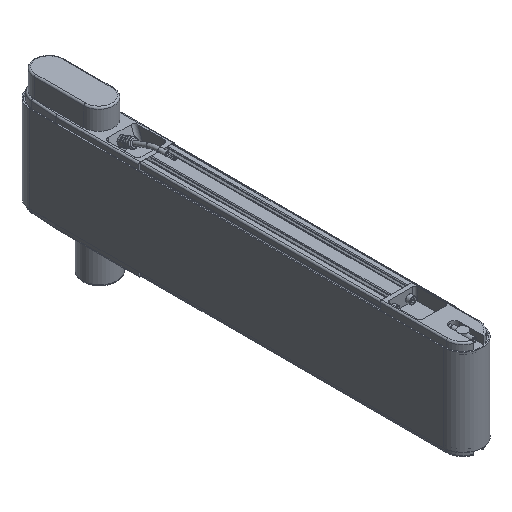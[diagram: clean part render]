
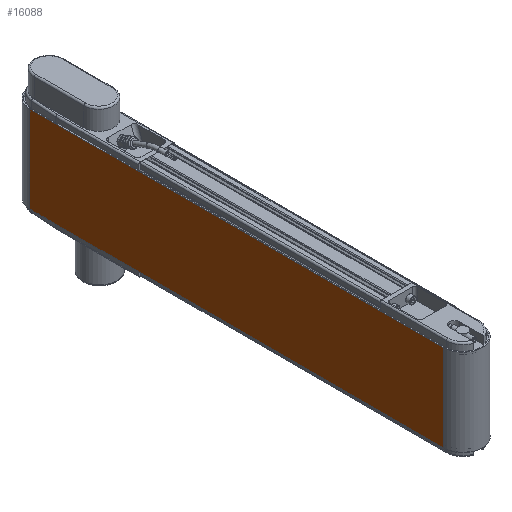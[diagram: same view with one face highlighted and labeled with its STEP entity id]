
A CAD part, isometric view. The second image highlights one B-rep face of the part: STEP entity #16088.
In plain terms, the highlighted planar face has unit normal (-1, 0, 0).
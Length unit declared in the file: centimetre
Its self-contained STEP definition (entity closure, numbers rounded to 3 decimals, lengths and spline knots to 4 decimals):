
#506=PLANE('',#17149);
#1167=FACE_OUTER_BOUND('',#2058,.T.);
#2058=EDGE_LOOP('',(#10876,#10877,#10878,#10879));
#3062=LINE('',#23926,#4314);
#3063=LINE('',#23931,#4315);
#3065=LINE('',#23935,#4317);
#3066=LINE('',#23936,#4318);
#4314=VECTOR('',#19255,1.);
#4315=VECTOR('',#19260,1.);
#4317=VECTOR('',#19264,1.);
#4318=VECTOR('',#19265,1.);
#6455=VERTEX_POINT('',#23920);
#6457=VERTEX_POINT('',#23924);
#6459=VERTEX_POINT('',#23929);
#6460=VERTEX_POINT('',#23934);
#8168=EDGE_CURVE('',#6455,#6457,#3062,.T.);
#8170=EDGE_CURVE('',#6459,#6457,#3063,.T.);
#8172=EDGE_CURVE('',#6459,#6460,#3065,.T.);
#8173=EDGE_CURVE('',#6460,#6455,#3066,.T.);
#10876=ORIENTED_EDGE('',*,*,#8172,.T.);
#10877=ORIENTED_EDGE('',*,*,#8173,.T.);
#10878=ORIENTED_EDGE('',*,*,#8168,.T.);
#10879=ORIENTED_EDGE('',*,*,#8170,.F.);
#16088=ADVANCED_FACE('',(#1167),#506,.T.);
#17149=AXIS2_PLACEMENT_3D('',#23933,#19262,#19263);
#19255=DIRECTION('',(0.,1.,0.));
#19260=DIRECTION('',(0.,0.,1.));
#19262=DIRECTION('center_axis',(-1.,0.,0.));
#19263=DIRECTION('ref_axis',(0.,0.,
1.));
#19264=DIRECTION('',(0.,-1.,0.));
#19265=DIRECTION('',(0.,0.,1.));
#23920=CARTESIAN_POINT('',(-2.33,-37.,5.25));
#23924=CARTESIAN_POINT('',(-2.33,13.,5.25));
#23926=CARTESIAN_POINT('',(-2.33,13.,5.25));
#23929=CARTESIAN_POINT('',(-2.33,13.,-5.25));
#23931=CARTESIAN_POINT('',(-2.33,13.,0.));
#23933=CARTESIAN_POINT('Origin',(-2.33,13.,0.));
#23934=CARTESIAN_POINT('',(-2.33,-37.,-5.25));
#23935=CARTESIAN_POINT('',(-2.33,13.,-5.25));
#23936=CARTESIAN_POINT('',(-2.33,-37.,0.));
